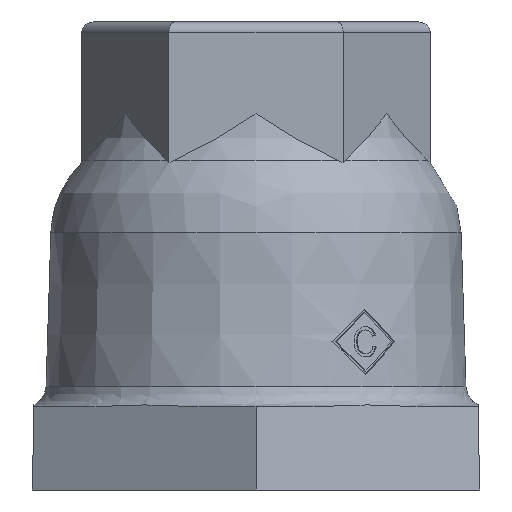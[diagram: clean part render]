
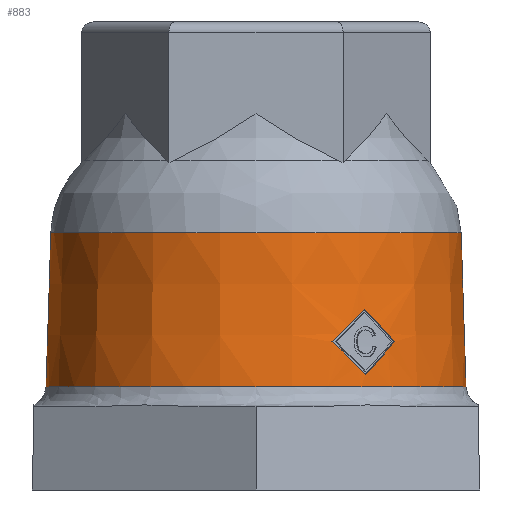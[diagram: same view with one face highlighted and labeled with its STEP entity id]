
A CAD part, front view. The second image highlights one B-rep face of the part: STEP entity #883.
In plain terms, the highlighted conical face has half-angle 1.8 degrees and reference radius 20.25 mm.
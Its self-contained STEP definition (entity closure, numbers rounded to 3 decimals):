
#212=CARTESIAN_POINT('',(10.539,-17.177,11.103));
#213=VERTEX_POINT('',#212);
#214=CARTESIAN_POINT('',(7.353,-18.657,14.247));
#215=VERTEX_POINT('',#214);
#216=CARTESIAN_POINT('',(0.488,0.295,10.722));
#217=DIRECTION('',(-0.573,-0.346,-0.743));
#218=DIRECTION('',(0.636,0.384,-0.669));
#219=AXIS2_PLACEMENT_3D('',#216,#217,#218);
#220=ELLIPSE('',#219,27.133,20.156);
#221=EDGE_CURVE('',#213,#215,#220,.T.);
#244=CARTESIAN_POINT('',(10.44,-17.006,17.398));
#245=VERTEX_POINT('',#244);
#246=CARTESIAN_POINT('',(-0.495,-0.273,16.056));
#247=DIRECTION('',(-0.586,-0.323,0.743));
#248=DIRECTION('',(0.651,0.359,0.669));
#249=AXIS2_PLACEMENT_3D('',#246,#247,#248);
#250=ELLIPSE('',#249,26.907,19.989);
#251=EDGE_CURVE('',#215,#245,#250,.T.);
#269=CARTESIAN_POINT('',(13.318,-14.993,14.244));
#270=VERTEX_POINT('',#269);
#271=CARTESIAN_POINT('',(-0.5,-0.276,9.752));
#272=DIRECTION('',(0.586,0.323,-0.743));
#273=DIRECTION('',(0.651,0.359,0.669));
#274=AXIS2_PLACEMENT_3D('',#271,#272,#273);
#275=ELLIPSE('',#274,27.174,20.187);
#276=EDGE_CURVE('',#270,#213,#275,.T.);
#294=CARTESIAN_POINT('',(0.484,0.292,17.026));
#295=DIRECTION('',(0.573,0.346,0.743));
#296=DIRECTION('',(0.636,0.384,-0.669));
#297=AXIS2_PLACEMENT_3D('',#294,#295,#296);
#298=ELLIPSE('',#297,26.866,19.958);
#299=EDGE_CURVE('',#245,#270,#298,.T.);
#850=CARTESIAN_POINT('',(0.,0.,8.));
#851=DIRECTION('',(0.,0.,-1.0));
#852=DIRECTION('',(-1.0,0.0,0.0));
#853=AXIS2_PLACEMENT_3D('',#850,#851,#852);
#854=CONICAL_SURFACE('',#853,20.25,1.8);
#855=CARTESIAN_POINT('',(20.189,0.,9.937));
#856=VERTEX_POINT('',#855);
#857=CARTESIAN_POINT('',(0.,0.,9.937));
#858=DIRECTION('',(0.0,0.0,-1.0));
#859=DIRECTION('',(-1.0,0.0,0.0));
#860=AXIS2_PLACEMENT_3D('',#857,#858,#859);
#861=CIRCLE('',#860,20.189);
#862=EDGE_CURVE('',#856,#856,#861,.T.);
#863=ORIENTED_EDGE('',*,*,#862,.F.);
#864=EDGE_LOOP('',(#863));
#865=FACE_OUTER_BOUND('',#864,.T.);
#866=CARTESIAN_POINT('',(-19.724,0.,24.739));
#867=VERTEX_POINT('',#866);
#868=CARTESIAN_POINT('',(0.,0.,24.739));
#869=DIRECTION('',(0.0,0.0,1.0));
#870=DIRECTION('',(1.0,0.0,0.0));
#871=AXIS2_PLACEMENT_3D('',#868,#869,#870);
#872=CIRCLE('',#871,19.724);
#873=EDGE_CURVE('',#867,#867,#872,.T.);
#874=ORIENTED_EDGE('',*,*,#873,.F.);
#875=EDGE_LOOP('',(#874));
#876=FACE_BOUND('',#875,.T.);
#877=ORIENTED_EDGE('',*,*,#221,.T.);
#878=ORIENTED_EDGE('',*,*,#251,.T.);
#879=ORIENTED_EDGE('',*,*,#299,.T.);
#880=ORIENTED_EDGE('',*,*,#276,.T.);
#881=EDGE_LOOP('',(#877,#878,#879,#880));
#882=FACE_BOUND('',#881,.T.);
#883=ADVANCED_FACE('',(#865,#876,#882),#854,.T.);
